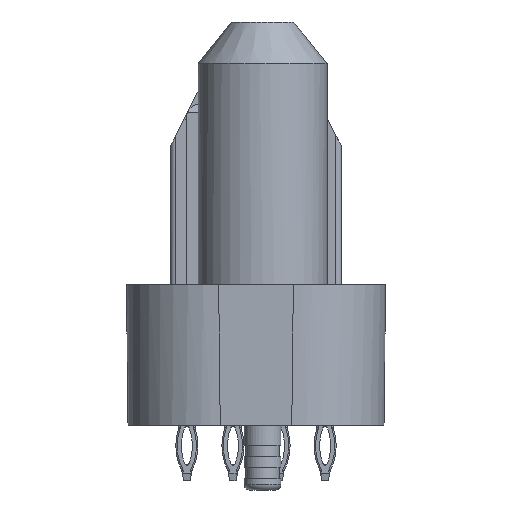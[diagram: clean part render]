
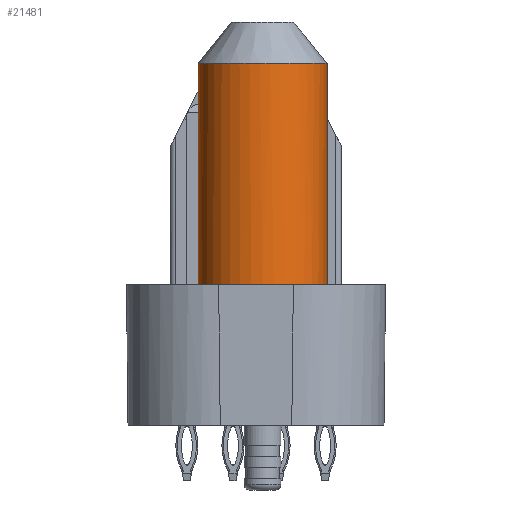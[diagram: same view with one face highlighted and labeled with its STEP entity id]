
A CAD part, left-side view. The second image highlights one B-rep face of the part: STEP entity #21481.
In plain terms, the highlighted cylindrical face has radius 3.5 mm (diameter 7 mm), a partial arc.
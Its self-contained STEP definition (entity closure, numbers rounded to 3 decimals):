
#15884=CYLINDRICAL_SURFACE('',#62913,3.5);
#18320=FACE_OUTER_BOUND('',#25272,.T.);
#18630=B_SPLINE_CURVE_WITH_KNOTS('',3,(#91365,#91366,#91367,#91368,#91369,
#91370,#91371,#91372,#91373,#91374),.UNSPECIFIED.,.F.,.F.,(4,2,2,2,4),(0.,
0.25,0.5,0.75,1.),.UNSPECIFIED.);
#21481=ADVANCED_FACE('',(#18320),#15884,.T.);
#25272=EDGE_LOOP('',(#44236,#44237,#44238,#44239));
#28374=LINE('',#91379,#31466);
#28375=LINE('',#91380,#31467);
#31466=VECTOR('',#77094,1.);
#31467=VECTOR('',#77095,1.);
#44236=ORIENTED_EDGE('',*,*,#54645,.F.);
#44237=ORIENTED_EDGE('',*,*,#54642,.T.);
#44238=ORIENTED_EDGE('',*,*,#54646,.F.);
#44239=ORIENTED_EDGE('',*,*,#48256,.T.);
#44304=VERTEX_POINT('',#77192);
#44307=VERTEX_POINT('',#77197);
#48223=VERTEX_POINT('',#91334);
#48224=VERTEX_POINT('',#91344);
#48256=EDGE_CURVE('',#44304,#44307,#54666,.T.);
#54642=EDGE_CURVE('',#48224,#48223,#18630,.T.);
#54645=EDGE_CURVE('',#48224,#44307,#28374,.T.);
#54646=EDGE_CURVE('',#44304,#48223,#28375,.T.);
#54666=CIRCLE('',#57391,3.5);
#57391=AXIS2_PLACEMENT_3D('',#77198,#62966,#62967);
#62913=AXIS2_PLACEMENT_3D('',#91381,#77096,#77097);
#62966=DIRECTION('',(0.,0.,1.));
#62967=DIRECTION('',(0.,-1.,0.));
#77094=DIRECTION('',(0.,0.,-1.));
#77095=DIRECTION('',(0.,0.,1.));
#77096=DIRECTION('',(0.,0.,1.));
#77097=DIRECTION('',(1.,0.,0.));
#77192=CARTESIAN_POINT('',(-18.45,3.145,7.63));
#77197=CARTESIAN_POINT('',(-18.45,-3.855,7.63));
#77198=CARTESIAN_POINT('',(-18.45,-0.355,7.63));
#91334=CARTESIAN_POINT('',(-18.45,3.145,19.63));
#91344=CARTESIAN_POINT('',(-18.45,-3.855,19.63));
#91365=CARTESIAN_POINT('',(-18.45,-3.855,19.63));
#91366=CARTESIAN_POINT('',(-19.366,-3.855,19.63));
#91367=CARTESIAN_POINT('',(-20.277,-3.478,19.63));
#91368=CARTESIAN_POINT('',(-21.573,-2.182,19.63));
#91369=CARTESIAN_POINT('',(-21.95,-1.271,19.63));
#91370=CARTESIAN_POINT('',(-21.95,0.561,19.63));
#91371=CARTESIAN_POINT('',(-21.573,1.472,19.63));
#91372=CARTESIAN_POINT('',(-20.277,2.768,19.63));
#91373=CARTESIAN_POINT('',(-19.366,3.145,19.63));
#91374=CARTESIAN_POINT('',(-18.45,3.145,19.63));
#91379=CARTESIAN_POINT('',(-18.45,-3.855,19.38));
#91380=CARTESIAN_POINT('',(-18.45,3.145,7.63));
#91381=CARTESIAN_POINT('',(-18.45,-0.355,7.63));
